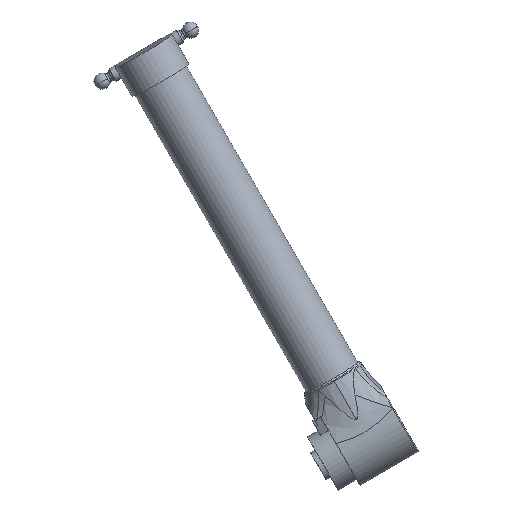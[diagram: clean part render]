
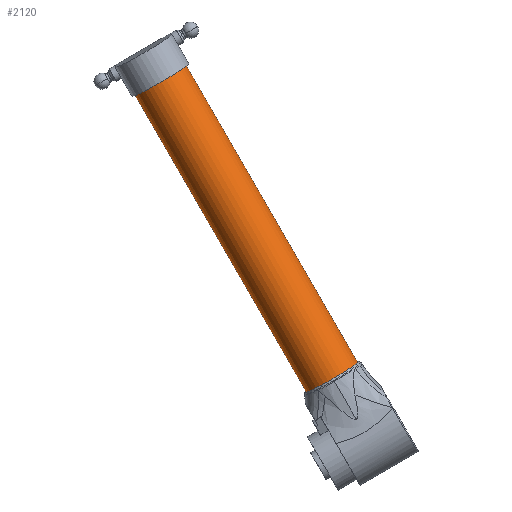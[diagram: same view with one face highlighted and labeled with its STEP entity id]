
A CAD part, top view. The second image highlights one B-rep face of the part: STEP entity #2120.
In plain terms, the highlighted cylindrical face has radius 29 mm (diameter 58 mm), a partial arc.
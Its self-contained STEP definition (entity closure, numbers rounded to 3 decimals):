
#48 = EDGE_CURVE ( 'NONE', #370, #134, #2108, .T. ) ;
#134 = VERTEX_POINT ( 'NONE', #1156 ) ;
#143 = ORIENTED_EDGE ( 'NONE', *, *, #3926, .T. ) ;
#279 = EDGE_CURVE ( 'NONE', #3328, #475, #1014, .T. ) ;
#369 = VECTOR ( 'NONE', #3493, 1000. ) ;
#370 = VERTEX_POINT ( 'NONE', #2838 ) ;
#475 = VERTEX_POINT ( 'NONE', #854 ) ;
#788 = CARTESIAN_POINT ( 'NONE',  ( -336.95, 525.614, -248.465 ) ) ;
#789 = DIRECTION ( 'NONE',  ( -0.499, 0.864, 0.063 ) ) ;
#854 = CARTESIAN_POINT ( 'NONE',  ( -95.096, 222.711, -272.468 ) ) ;
#1014 = LINE ( 'NONE', #2426, #369 ) ;
#1156 = CARTESIAN_POINT ( 'NONE',  ( -145.325, 193.711, -272.468 ) ) ;
#1205 = DIRECTION ( 'NONE',  ( 0.866, 0.5, 0. ) ) ;
#1551 = DIRECTION ( 'NONE',  ( -0.866, -0.5, 0. ) ) ;
#1779 = VECTOR ( 'NONE', #3278, 1000. ) ;
#1782 = CARTESIAN_POINT ( 'NONE',  ( -286.72, 554.614, -248.465 ) ) ;
#1800 = CIRCLE ( 'NONE', #2315, 29. ) ;
#1972 = ORIENTED_EDGE ( 'NONE', *, *, #279, .F. ) ;
#2108 = LINE ( 'NONE', #788, #1779 ) ;
#2120 = ADVANCED_FACE ( 'NONE', ( #3285 ), #4374, .T. ) ;
#2242 = CARTESIAN_POINT ( 'NONE',  ( -311.835, 540.114, -248.465 ) ) ;
#2315 = AXIS2_PLACEMENT_3D ( 'NONE', #3550, #789, #3627 ) ;
#2426 = CARTESIAN_POINT ( 'NONE',  ( -286.72, 554.614, -248.465 ) ) ;
#2428 = EDGE_CURVE ( 'NONE', #370, #3328, #3270, .T. ) ;
#2838 = CARTESIAN_POINT ( 'NONE',  ( -336.95, 525.614, -248.465 ) ) ;
#2934 = CARTESIAN_POINT ( 'NONE',  ( -311.835, 540.114, -248.465 ) ) ;
#3153 = ORIENTED_EDGE ( 'NONE', *, *, #48, .T. ) ;
#3258 = DIRECTION ( 'NONE',  ( -0.499, 0.864, 0.063 ) ) ;
#3270 = CIRCLE ( 'NONE', #3503, 29. ) ;
#3278 = DIRECTION ( 'NONE',  ( 0.499, -0.864, -0.063 ) ) ;
#3285 = FACE_OUTER_BOUND ( 'NONE', #3440, .T. ) ;
#3306 = DIRECTION ( 'NONE',  ( 0.499, -0.864, -0.063 ) ) ;
#3328 = VERTEX_POINT ( 'NONE', #1782 ) ;
#3440 = EDGE_LOOP ( 'NONE', ( #3722, #3153, #143, #1972 ) ) ;
#3493 = DIRECTION ( 'NONE',  ( 0.499, -0.864, -0.063 ) ) ;
#3503 = AXIS2_PLACEMENT_3D ( 'NONE', #2242, #3258, #1551 ) ;
#3550 = CARTESIAN_POINT ( 'NONE',  ( -120.21, 208.211, -272.468 ) ) ;
#3627 = DIRECTION ( 'NONE',  ( -0.866, -0.5, 0. ) ) ;
#3639 = AXIS2_PLACEMENT_3D ( 'NONE', #2934, #3306, #1205 ) ;
#3722 = ORIENTED_EDGE ( 'NONE', *, *, #2428, .F. ) ;
#3926 = EDGE_CURVE ( 'NONE', #134, #475, #1800, .T. ) ;
#4374 = CYLINDRICAL_SURFACE ( 'NONE', #3639, 29. ) ;
